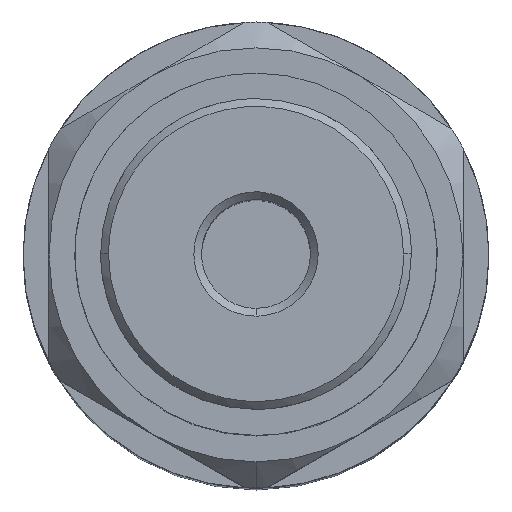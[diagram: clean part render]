
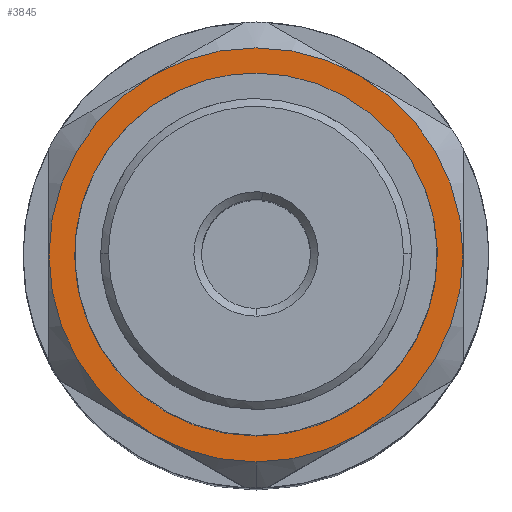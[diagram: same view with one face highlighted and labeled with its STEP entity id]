
A CAD part, top view. The second image highlights one B-rep face of the part: STEP entity #3845.
In plain terms, the highlighted planar face has unit normal (0, 0, 1).
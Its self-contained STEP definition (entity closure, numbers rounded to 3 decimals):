
#103 = AXIS2_PLACEMENT_3D ( 'NONE', #1274, #6535, #5278 ) ;
#134 = ORIENTED_EDGE ( 'NONE', *, *, #12910, .T. ) ;
#322 = ORIENTED_EDGE ( 'NONE', *, *, #5955, .T. ) ;
#776 = CARTESIAN_POINT ( 'NONE',  ( -30.641, 68.721, -217.273 ) ) ;
#870 = VERTEX_POINT ( 'NONE', #10853 ) ;
#969 = ORIENTED_EDGE ( 'NONE', *, *, #2618, .T. ) ;
#1274 = CARTESIAN_POINT ( 'NONE',  ( -30.641, 68.721, -217.273 ) ) ;
#1478 = CARTESIAN_POINT ( 'NONE',  ( -30.641, 68.721, -217.273 ) ) ;
#1495 = VERTEX_POINT ( 'NONE', #3330 ) ;
#1536 = ORIENTED_EDGE ( 'NONE', *, *, #8816, .T. ) ;
#1542 = CARTESIAN_POINT ( 'NONE',  ( -26.641, 61.792, -217.273 ) ) ;
#2403 = CIRCLE ( 'NONE', #103, 8. ) ;
#2515 = DIRECTION ( 'NONE',  ( 0., 1., 0. ) ) ;
#2618 = EDGE_CURVE ( 'NONE', #11978, #11405, #2403, .T. ) ;
#2689 = CIRCLE ( 'NONE', #10610, 8. ) ;
#2744 = CARTESIAN_POINT ( 'NONE',  ( -34.641, 61.792, -217.273 ) ) ;
#2809 = DIRECTION ( 'NONE',  ( 0., 0., 1. ) ) ;
#3106 = CARTESIAN_POINT ( 'NONE',  ( -30.641, 68.721, -217.273 ) ) ;
#3212 = CARTESIAN_POINT ( 'NONE',  ( -38.641, 68.721, -217.273 ) ) ;
#3330 = CARTESIAN_POINT ( 'NONE',  ( -30.641, 60.721, -217.273 ) ) ;
#3609 = DIRECTION ( 'NONE',  ( 0., 1., 0. ) ) ;
#3845 = ADVANCED_FACE ( 'NONE', ( #8001, #10410 ), #8089, .T. ) ;
#4055 = CARTESIAN_POINT ( 'NONE',  ( -26.641, 75.649, -217.273 ) ) ;
#4139 = DIRECTION ( 'NONE',  ( 0., 1., 0. ) ) ;
#4284 = EDGE_LOOP ( 'NONE', ( #1536, #10210, #134, #12326, #7181, #322, #969 ) ) ;
#4308 = EDGE_CURVE ( 'NONE', #8141, #870, #6904, .T. ) ;
#4311 = CIRCLE ( 'NONE', #10096, 8. ) ;
#4543 = AXIS2_PLACEMENT_3D ( 'NONE', #5749, #11934, #4700 ) ;
#4700 = DIRECTION ( 'NONE',  ( 0., 1., 0. ) ) ;
#4749 = ORIENTED_EDGE ( 'NONE', *, *, #4308, .F. ) ;
#4960 = DIRECTION ( 'NONE',  ( 0., 1., 0. ) ) ;
#5011 = DIRECTION ( 'NONE',  ( 0., 0., 1. ) ) ;
#5237 = EDGE_CURVE ( 'NONE', #1495, #8354, #7842, .T. ) ;
#5278 = DIRECTION ( 'NONE',  ( 0., 1., 0. ) ) ;
#5343 = EDGE_CURVE ( 'NONE', #870, #8141, #6359, .T. ) ;
#5556 = DIRECTION ( 'NONE',  ( 0., 0., 1. ) ) ;
#5749 = CARTESIAN_POINT ( 'NONE',  ( -30.641, 68.721, -217.273 ) ) ;
#5792 = DIRECTION ( 'NONE',  ( 0., 0., 1. ) ) ;
#5877 = DIRECTION ( 'NONE',  ( 0., 0., 1. ) ) ;
#5918 = DIRECTION ( 'NONE',  ( 0., 0., 1. ) ) ;
#5955 = EDGE_CURVE ( 'NONE', #8758, #11978, #9191, .T. ) ;
#6351 = CARTESIAN_POINT ( 'NONE',  ( -30.641, 75.721, -217.273 ) ) ;
#6359 = CIRCLE ( 'NONE', #4543, 7. ) ;
#6535 = DIRECTION ( 'NONE',  ( 0., 0., 1. ) ) ;
#6835 = EDGE_CURVE ( 'NONE', #13265, #7709, #4311, .T. ) ;
#6904 = CIRCLE ( 'NONE', #13221, 7. ) ;
#7181 = ORIENTED_EDGE ( 'NONE', *, *, #9720, .T. ) ;
#7187 = AXIS2_PLACEMENT_3D ( 'NONE', #11188, #5011, #12228 ) ;
#7227 = CARTESIAN_POINT ( 'NONE',  ( -30.641, 68.721, -217.273 ) ) ;
#7284 = EDGE_LOOP ( 'NONE', ( #4749, #10241 ) ) ;
#7534 = AXIS2_PLACEMENT_3D ( 'NONE', #776, #5556, #3609 ) ;
#7709 = VERTEX_POINT ( 'NONE', #2744 ) ;
#7842 = CIRCLE ( 'NONE', #12906, 8. ) ;
#7935 = CIRCLE ( 'NONE', #8699, 8. ) ;
#8001 = FACE_OUTER_BOUND ( 'NONE', #4284, .T. ) ;
#8089 = PLANE ( 'NONE',  #7534 ) ;
#8141 = VERTEX_POINT ( 'NONE', #6351 ) ;
#8354 = VERTEX_POINT ( 'NONE', #1542 ) ;
#8691 = DIRECTION ( 'NONE',  ( 0., 0., 1. ) ) ;
#8699 = AXIS2_PLACEMENT_3D ( 'NONE', #9002, #2809, #10026 ) ;
#8758 = VERTEX_POINT ( 'NONE', #11747 ) ;
#8816 = EDGE_CURVE ( 'NONE', #11405, #13265, #2689, .T. ) ;
#9002 = CARTESIAN_POINT ( 'NONE',  ( -30.641, 68.721, -217.273 ) ) ;
#9191 = CIRCLE ( 'NONE', #12320, 8. ) ;
#9720 = EDGE_CURVE ( 'NONE', #8354, #8758, #10020, .T. ) ;
#10020 = CIRCLE ( 'NONE', #7187, 8. ) ;
#10026 = DIRECTION ( 'NONE',  ( 0., 1., 0. ) ) ;
#10096 = AXIS2_PLACEMENT_3D ( 'NONE', #12061, #5877, #13086 ) ;
#10210 = ORIENTED_EDGE ( 'NONE', *, *, #6835, .T. ) ;
#10241 = ORIENTED_EDGE ( 'NONE', *, *, #5343, .F. ) ;
#10314 = DIRECTION ( 'NONE',  ( 0., 0., 1. ) ) ;
#10410 = FACE_BOUND ( 'NONE', #7284, .T. ) ;
#10610 = AXIS2_PLACEMENT_3D ( 'NONE', #1478, #8691, #2515 ) ;
#10745 = CARTESIAN_POINT ( 'NONE',  ( -34.641, 75.649, -217.273 ) ) ;
#10853 = CARTESIAN_POINT ( 'NONE',  ( -30.641, 61.721, -217.273 ) ) ;
#11188 = CARTESIAN_POINT ( 'NONE',  ( -30.641, 68.721, -217.273 ) ) ;
#11405 = VERTEX_POINT ( 'NONE', #10745 ) ;
#11747 = CARTESIAN_POINT ( 'NONE',  ( -22.641, 68.721, -217.273 ) ) ;
#11934 = DIRECTION ( 'NONE',  ( 0., 0., 1. ) ) ;
#11975 = DIRECTION ( 'NONE',  ( 0., 1., 0. ) ) ;
#11978 = VERTEX_POINT ( 'NONE', #4055 ) ;
#12061 = CARTESIAN_POINT ( 'NONE',  ( -30.641, 68.721, -217.273 ) ) ;
#12228 = DIRECTION ( 'NONE',  ( 0., 1., 0. ) ) ;
#12320 = AXIS2_PLACEMENT_3D ( 'NONE', #3106, #10314, #4139 ) ;
#12326 = ORIENTED_EDGE ( 'NONE', *, *, #5237, .T. ) ;
#12906 = AXIS2_PLACEMENT_3D ( 'NONE', #13002, #5792, #11975 ) ;
#12910 = EDGE_CURVE ( 'NONE', #7709, #1495, #7935, .T. ) ;
#13002 = CARTESIAN_POINT ( 'NONE',  ( -30.641, 68.721, -217.273 ) ) ;
#13086 = DIRECTION ( 'NONE',  ( 0., 1., 0. ) ) ;
#13221 = AXIS2_PLACEMENT_3D ( 'NONE', #7227, #5918, #4960 ) ;
#13265 = VERTEX_POINT ( 'NONE', #3212 ) ;
